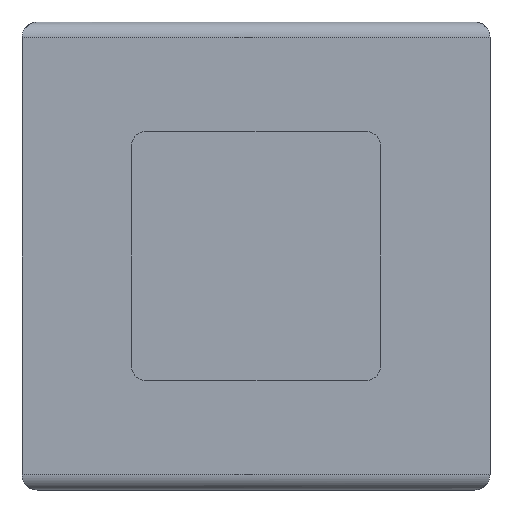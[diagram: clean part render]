
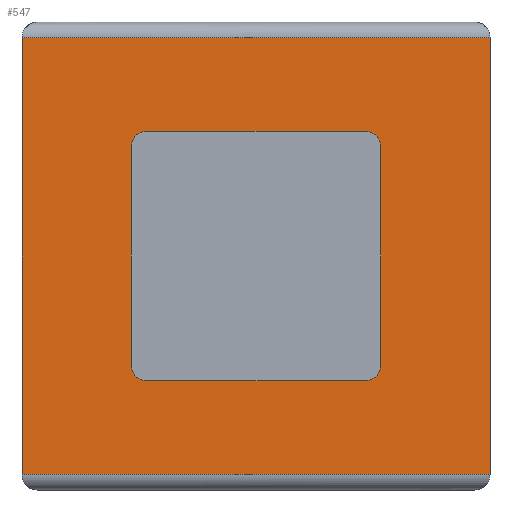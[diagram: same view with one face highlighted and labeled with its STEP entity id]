
A CAD part, front view. The second image highlights one B-rep face of the part: STEP entity #547.
In plain terms, the highlighted planar face has unit normal (0, -1, 0).
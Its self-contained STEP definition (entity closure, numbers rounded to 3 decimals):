
#229 = VERTEX_POINT( '', #655 );
#233 = EDGE_CURVE( '', #295, #319, #659, .T. );
#251 = VERTEX_POINT( '', #681 );
#259 = EDGE_CURVE( '', #415, #621, #689, .T. );
#281 = EDGE_CURVE( '', #251, #481, #713, .T. );
#295 = VERTEX_POINT( '', #729 );
#309 = VERTEX_POINT( '', #744 );
#311 = VERTEX_POINT( '', #746 );
#319 = VERTEX_POINT( '', #754 );
#329 = EDGE_CURVE( '', #481, #621, #764, .T. );
#379 = EDGE_CURVE( '', #311, #567, #818, .T. );
#415 = VERTEX_POINT( '', #858 );
#427 = EDGE_CURVE( '', #433, #229, #870, .T. );
#429 = EDGE_CURVE( '', #251, #415, #872, .T. );
#433 = VERTEX_POINT( '', #876 );
#435 = EDGE_CURVE( '', #319, #433, #878, .T. );
#447 = VERTEX_POINT( '', #891 );
#449 = EDGE_CURVE( '', #229, #447, #893, .T. );
#481 = VERTEX_POINT( '', #931 );
#539 = EDGE_CURVE( '', #567, #295, #998, .T. );
#547 = ADVANCED_FACE( '', ( #1006, #1007 ), #1008, .T. );
#557 = EDGE_CURVE( '', #447, #309, #1022, .T. );
#567 = VERTEX_POINT( '', #1033 );
#609 = EDGE_CURVE( '', #309, #311, #1079, .T. );
#621 = VERTEX_POINT( '', #1092 );
#655 = CARTESIAN_POINT( '', ( 8., -30., 7. ) );
#659 = CIRCLE( '', #1122, 1. );
#681 = CARTESIAN_POINT( '', ( 15., -30., 14. ) );
#689 = LINE( '', #1156, #1157 );
#713 = LINE( '', #1190, #1191 );
#729 = CARTESIAN_POINT( '', ( -8., -30., 7. ) );
#744 = CARTESIAN_POINT( '', ( 7., -30., -8. ) );
#746 = CARTESIAN_POINT( '', ( -7., -30., -8. ) );
#754 = CARTESIAN_POINT( '', ( -7., -30., 8. ) );
#764 = LINE( '', #1260, #1261 );
#818 = CIRCLE( '', #1336, 1. );
#858 = CARTESIAN_POINT( '', ( 15., -30., -14. ) );
#870 = CIRCLE( '', #1407, 1. );
#872 = LINE( '', #1410, #1411 );
#876 = CARTESIAN_POINT( '', ( 7., -30., 8. ) );
#878 = LINE( '', #1420, #1421 );
#891 = CARTESIAN_POINT( '', ( 8., -30., -7. ) );
#893 = LINE( '', #1442, #1443 );
#931 = CARTESIAN_POINT( '', ( -15., -30., 14. ) );
#998 = LINE( '', #1582, #1583 );
#1006 = FACE_BOUND( '', #1595, .T. );
#1007 = FACE_OUTER_BOUND( '', #1596, .T. );
#1008 = PLANE( '', #1597 );
#1022 = CIRCLE( '', #1614, 1. );
#1033 = CARTESIAN_POINT( '', ( -8., -30., -7. ) );
#1079 = LINE( '', #1693, #1694 );
#1092 = CARTESIAN_POINT( '', ( -15., -30., -14. ) );
#1122 = AXIS2_PLACEMENT_3D( '', #1732, #1733, #1734 );
#1156 = CARTESIAN_POINT( '', ( 15., -30., -14. ) );
#1157 = VECTOR( '', #1776, 1. );
#1190 = CARTESIAN_POINT( '', ( 15., -30., 14. ) );
#1191 = VECTOR( '', #1807, 1. );
#1260 = CARTESIAN_POINT( '', ( -15., -30., 14. ) );
#1261 = VECTOR( '', #1855, 1. );
#1336 = AXIS2_PLACEMENT_3D( '', #1903, #1904, #1905 );
#1407 = AXIS2_PLACEMENT_3D( '', #1961, #1962, #1963 );
#1410 = CARTESIAN_POINT( '', ( 15., -30., 14. ) );
#1411 = VECTOR( '', #1964, 1. );
#1420 = CARTESIAN_POINT( '', ( 11., -30., 8. ) );
#1421 = VECTOR( '', #1966, 1. );
#1442 = CARTESIAN_POINT( '', ( 8., -30., 3.5 ) );
#1443 = VECTOR( '', #1980, 1. );
#1582 = CARTESIAN_POINT( '', ( -8., -30., 10.5 ) );
#1583 = VECTOR( '', #2141, 1. );
#1595 = EDGE_LOOP( '', ( #2145, #2146, #2147, #2148, #2149, #2150, #2151, #2152 ) );
#1596 = EDGE_LOOP( '', ( #2153, #2154, #2155, #2156 ) );
#1597 = AXIS2_PLACEMENT_3D( '', #2157, #2158, #2159 );
#1614 = AXIS2_PLACEMENT_3D( '', #2188, #2189, #2190 );
#1693 = CARTESIAN_POINT( '', ( 4., -30., -8. ) );
#1694 = VECTOR( '', #2259, 1. );
#1732 = CARTESIAN_POINT( '', ( -7., -30., 7. ) );
#1733 = DIRECTION( '', ( 0., 1., 0. ) );
#1734 = DIRECTION( '', ( -1., 0., 0. ) );
#1776 = DIRECTION( '', ( -1., 0., 0. ) );
#1807 = DIRECTION( '', ( -1., 0., 0. ) );
#1855 = DIRECTION( '', ( 0., 0., -1. ) );
#1903 = CARTESIAN_POINT( '', ( -7., -30., -7. ) );
#1904 = DIRECTION( '', ( 0., 1., 0. ) );
#1905 = DIRECTION( '', ( 0., 0., -1. ) );
#1961 = CARTESIAN_POINT( '', ( 7., -30., 7. ) );
#1962 = DIRECTION( '', ( 0., 1., 0. ) );
#1963 = DIRECTION( '', ( 0., 0., 1. ) );
#1964 = DIRECTION( '', ( 0., 0., -1. ) );
#1966 = DIRECTION( '', ( 1., 0., 0. ) );
#1980 = DIRECTION( '', ( 0., 0., -1. ) );
#2141 = DIRECTION( '', ( 0., 0., 1. ) );
#2145 = ORIENTED_EDGE( '', *, *, #379, .T. );
#2146 = ORIENTED_EDGE( '', *, *, #539, .T. );
#2147 = ORIENTED_EDGE( '', *, *, #233, .T. );
#2148 = ORIENTED_EDGE( '', *, *, #435, .T. );
#2149 = ORIENTED_EDGE( '', *, *, #427, .T. );
#2150 = ORIENTED_EDGE( '', *, *, #449, .T. );
#2151 = ORIENTED_EDGE( '', *, *, #557, .T. );
#2152 = ORIENTED_EDGE( '', *, *, #609, .T. );
#2153 = ORIENTED_EDGE( '', *, *, #329, .T. );
#2154 = ORIENTED_EDGE( '', *, *, #259, .F. );
#2155 = ORIENTED_EDGE( '', *, *, #429, .F. );
#2156 = ORIENTED_EDGE( '', *, *, #281, .T. );
#2157 = CARTESIAN_POINT( '', ( 15., -30., 14. ) );
#2158 = DIRECTION( '', ( 0., -1., 0. ) );
#2159 = DIRECTION( '', ( 0., 0., 1. ) );
#2188 = CARTESIAN_POINT( '', ( 7., -30., -7. ) );
#2189 = DIRECTION( '', ( 0., 1., 0. ) );
#2190 = DIRECTION( '', ( 1., 0., 0. ) );
#2259 = DIRECTION( '', ( -1., 0., 0. ) );
